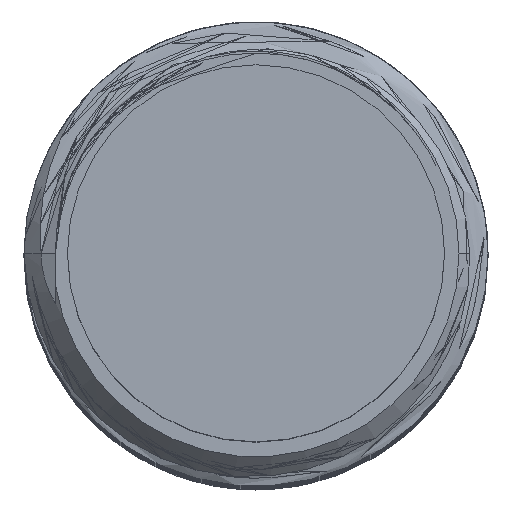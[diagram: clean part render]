
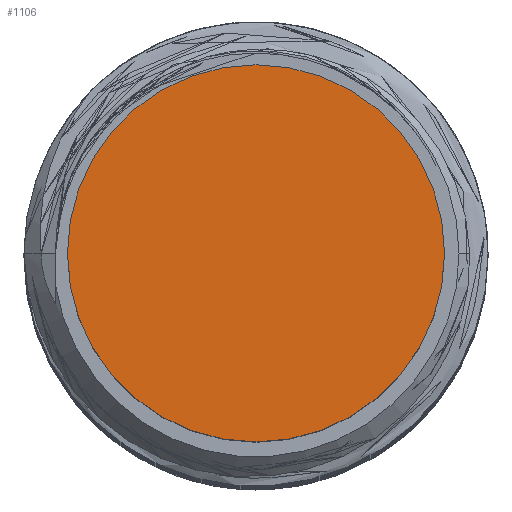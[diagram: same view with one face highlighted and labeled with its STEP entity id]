
A CAD part, top view. The second image highlights one B-rep face of the part: STEP entity #1106.
In plain terms, the highlighted planar face has unit normal (0, 0, 1).
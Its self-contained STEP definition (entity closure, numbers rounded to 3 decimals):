
#637 = CARTESIAN_POINT ( 'NONE',  ( 0., 0., 45. ) ) ;
#700 = EDGE_CURVE ( 'NONE', #3648, #2052, #4186, .T. ) ;
#808 = EDGE_LOOP ( 'NONE', ( #4359, #7333 ) ) ;
#956 = DIRECTION ( 'NONE',  ( 0., 0., 1. ) ) ;
#1095 = DIRECTION ( 'NONE',  ( 1., 0., 0. ) ) ;
#1106 = ADVANCED_FACE ( 'NONE', ( #7046 ), #3470, .T. ) ;
#1152 = DIRECTION ( 'NONE',  ( 0., 0., 1. ) ) ;
#1769 = DIRECTION ( 'NONE',  ( 1., 0., 0. ) ) ;
#1902 = CARTESIAN_POINT ( 'NONE',  ( -3.25, 0., 45. ) ) ;
#2052 = VERTEX_POINT ( 'NONE', #7037 ) ;
#2938 = DIRECTION ( 'NONE',  ( 0., 0., 1. ) ) ;
#3271 = AXIS2_PLACEMENT_3D ( 'NONE', #7612, #1152, #1769 ) ;
#3470 = PLANE ( 'NONE',  #5680 ) ;
#3648 = VERTEX_POINT ( 'NONE', #1902 ) ;
#4186 = CIRCLE ( 'NONE', #5389, 3.25 ) ;
#4256 = DIRECTION ( 'NONE',  ( 1., 0., 0. ) ) ;
#4359 = ORIENTED_EDGE ( 'NONE', *, *, #5294, .T. ) ;
#5294 = EDGE_CURVE ( 'NONE', #2052, #3648, #5823, .T. ) ;
#5389 = AXIS2_PLACEMENT_3D ( 'NONE', #7511, #956, #1095 ) ;
#5680 = AXIS2_PLACEMENT_3D ( 'NONE', #637, #2938, #4256 ) ;
#5823 = CIRCLE ( 'NONE', #3271, 3.25 ) ;
#7037 = CARTESIAN_POINT ( 'NONE',  ( 3.25, 0., 45. ) ) ;
#7046 = FACE_OUTER_BOUND ( 'NONE', #808, .T. ) ;
#7333 = ORIENTED_EDGE ( 'NONE', *, *, #700, .T. ) ;
#7511 = CARTESIAN_POINT ( 'NONE',  ( 0., 0., 45. ) ) ;
#7612 = CARTESIAN_POINT ( 'NONE',  ( 0., 0., 45. ) ) ;
